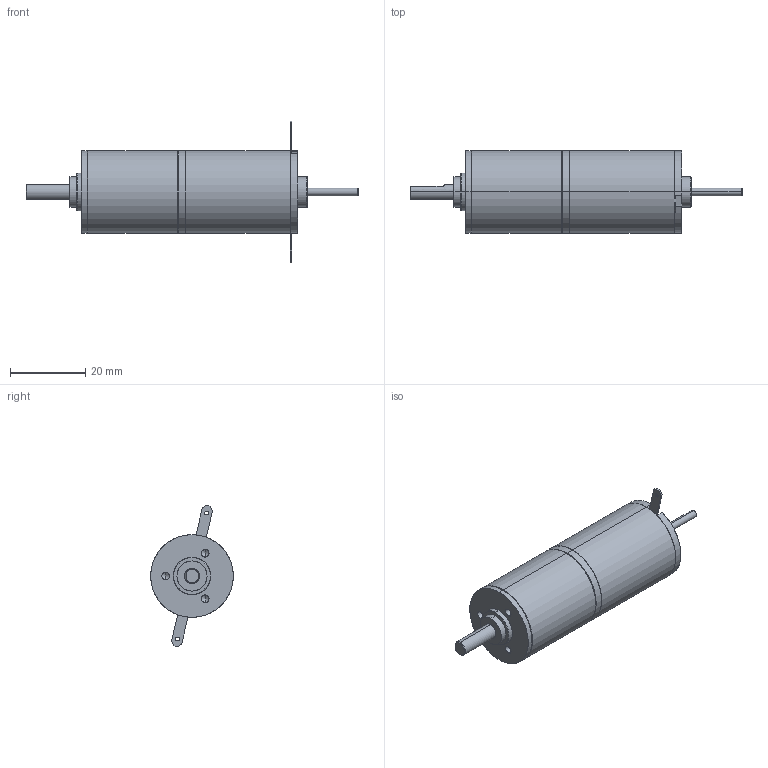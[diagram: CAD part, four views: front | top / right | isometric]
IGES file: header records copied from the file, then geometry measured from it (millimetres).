
Start section: SolidWorks IGES file using analytic representation for surfaces
Global section: file name: \\Uranus\R&D\plans\CATALOGUES\Topstock_Piece_IGES\AMax22CLL_+_GP022C 1etage.IGS; native system: SolidWorks 2008; preprocessor: SolidWorks 2008; author: JUL; date: 090325.183501; units: millimetre
Bounding box: 88.35 x 22 x 37.64 mm (x, y, z)
Surface area: 7032.4 mm2 (no closed solid volume)
Topology: 0 solids, 0 shells, 147 faces, 1709 edges, 1683 vertices
Faces by surface type: revolution 106, bspline 41
